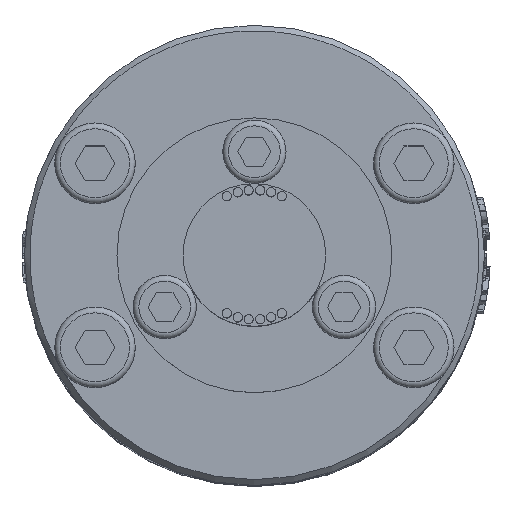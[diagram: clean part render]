
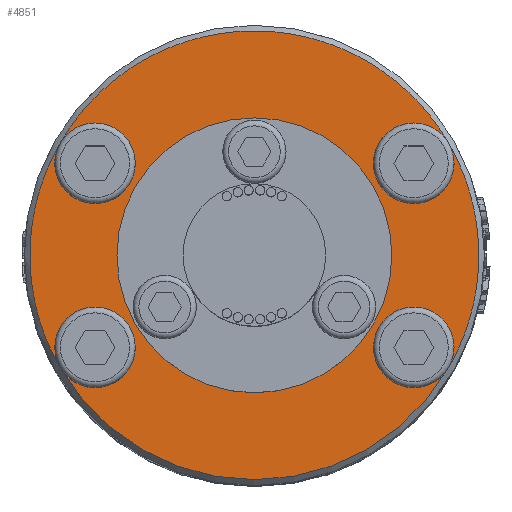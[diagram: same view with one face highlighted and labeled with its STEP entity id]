
A CAD part, top view. The second image highlights one B-rep face of the part: STEP entity #4851.
In plain terms, the highlighted planar face has unit normal (0, 0, 1).
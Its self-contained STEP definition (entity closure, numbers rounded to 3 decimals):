
#1230=PLANE('',#22585);
#1577=FACE_BOUND('',#7358,.T.);
#1578=FACE_BOUND('',#7359,.T.);
#4851=ADVANCED_FACE('',(#1577,#1578),#1230,.T.);
#7358=EDGE_LOOP('',(#15987,#15988,#15989,#15990,#15991,#15992,#15993,#15994));
#7359=EDGE_LOOP('',(#15995));
#15987=ORIENTED_EDGE('',*,*,#21268,.T.);
#15988=ORIENTED_EDGE('',*,*,#21189,.F.);
#15989=ORIENTED_EDGE('',*,*,#21267,.T.);
#15990=ORIENTED_EDGE('',*,*,#21252,.F.);
#15991=ORIENTED_EDGE('',*,*,#21266,.T.);
#15992=ORIENTED_EDGE('',*,*,#21231,.F.);
#15993=ORIENTED_EDGE('',*,*,#21269,.T.);
#15994=ORIENTED_EDGE('',*,*,#21210,.F.);
#15995=ORIENTED_EDGE('',*,*,#21154,.F.);
#18088=VERTEX_POINT('',#44454);
#18123=VERTEX_POINT('',#44553);
#18138=VERTEX_POINT('',#44599);
#18153=VERTEX_POINT('',#44645);
#18168=VERTEX_POINT('',#44691);
#21154=EDGE_CURVE('',#18088,#18088,#21501,.T.);
#21189=EDGE_CURVE('',#18123,#18123,#21530,.T.);
#21210=EDGE_CURVE('',#18138,#18138,#21533,.T.);
#21231=EDGE_CURVE('',#18153,#18153,#21536,.T.);
#21252=EDGE_CURVE('',#18168,#18168,#21539,.T.);
#21266=EDGE_CURVE('',#18168,#18153,#21541,.T.);
#21267=EDGE_CURVE('',#18123,#18168,#21542,.T.);
#21268=EDGE_CURVE('',#18138,#18123,#21543,.T.);
#21269=EDGE_CURVE('',#18153,#18138,#21544,.T.);
#21501=CIRCLE('',#22469,11.95);
#21530=CIRCLE('',#22527,3.5);
#21533=CIRCLE('',#22540,3.5);
#21536=CIRCLE('',#22553,3.5);
#21539=CIRCLE('',#22566,3.5);
#21541=CIRCLE('',#22578,19.5);
#21542=CIRCLE('',#22579,19.5);
#21543=CIRCLE('',#22580,19.5);
#21544=CIRCLE('',#22581,19.5);
#22469=AXIS2_PLACEMENT_3D('',#44453,#25538,#25539);
#22527=AXIS2_PLACEMENT_3D('',#44552,#25660,#25661);
#22540=AXIS2_PLACEMENT_3D('',#44598,#25704,#25705);
#22553=AXIS2_PLACEMENT_3D('',#44644,#25748,#25749);
#22566=AXIS2_PLACEMENT_3D('',#44690,#25792,#25793);
#22578=AXIS2_PLACEMENT_3D('',#44722,#25828,#25829);
#22579=AXIS2_PLACEMENT_3D('',#44723,#25830,#25831);
#22580=AXIS2_PLACEMENT_3D('',#44724,#25832,#25833);
#22581=AXIS2_PLACEMENT_3D('',#44725,#25834,#25835);
#22585=AXIS2_PLACEMENT_3D('',#44730,#25842,#25843);
#25538=DIRECTION('',(0.,0.,1.));
#25539=DIRECTION('',(0.,1.,0.));
#25660=DIRECTION('',(0.,0.,1.));
#25661=DIRECTION('',(1.,0.,0.));
#25704=DIRECTION('',(0.,0.,1.));
#25705=DIRECTION('',(1.,0.,0.));
#25748=DIRECTION('',(0.,0.,1.));
#25749=DIRECTION('',(1.,0.,0.));
#25792=DIRECTION('',(0.,0.,1.));
#25793=DIRECTION('',(1.,0.,0.));
#25828=DIRECTION('',(0.,0.,1.));
#25829=DIRECTION('',(1.,0.,0.));
#25830=DIRECTION('',(0.,0.,1.));
#25831=DIRECTION('',(1.,0.,0.));
#25832=DIRECTION('',(0.,0.,1.));
#25833=DIRECTION('',(1.,0.,0.));
#25834=DIRECTION('',(0.,0.,1.));
#25835=DIRECTION('',(1.,0.,0.));
#25842=DIRECTION('',(0.,0.,1.));
#25843=DIRECTION('',(1.,0.,0.));
#44453=CARTESIAN_POINT('',(0.,0.,78.));
#44454=CARTESIAN_POINT('',(0.,11.95,78.));
#44552=CARTESIAN_POINT('',(13.856,8.,78.));
#44553=CARTESIAN_POINT('',(16.887,9.75,78.));
#44598=CARTESIAN_POINT('',(13.856,-8.,78.));
#44599=CARTESIAN_POINT('',(16.887,-9.75,78.));
#44644=CARTESIAN_POINT('',(-13.856,-8.,78.));
#44645=CARTESIAN_POINT('',(-16.887,-9.75,78.));
#44690=CARTESIAN_POINT('',(-13.856,8.,78.));
#44691=CARTESIAN_POINT('',(-16.887,9.75,78.));
#44722=CARTESIAN_POINT('',(0.,0.,78.));
#44723=CARTESIAN_POINT('',(0.,0.,78.));
#44724=CARTESIAN_POINT('',(0.,0.,78.));
#44725=CARTESIAN_POINT('',(0.,0.,78.));
#44730=CARTESIAN_POINT('',(0.,0.,78.));
